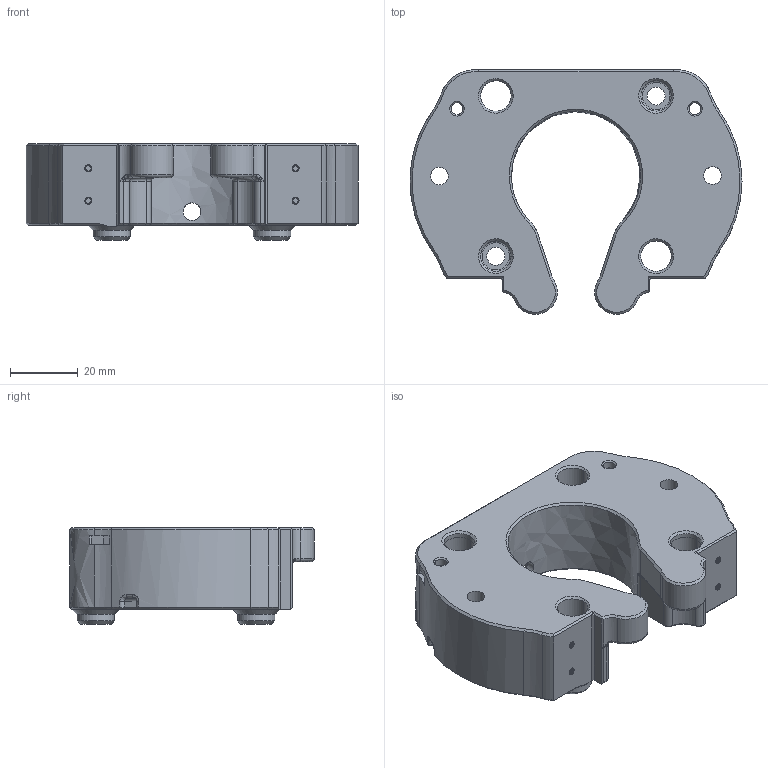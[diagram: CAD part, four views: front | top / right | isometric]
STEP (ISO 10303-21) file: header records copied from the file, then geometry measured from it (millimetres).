
FILE_DESCRIPTION(/* description */ (''),/* implementation_level */ '2;1');
FILE_NAME(/* name */ 'OSSM - Body - Middle.step',/* time_stamp */ '2023-02-08T08:36:30-08:00',/* author */ (''),/* organization */ (''),/* preprocessor_version */ 'ST-DEVELOPER v19.2',/* originating_system */ 'Autodesk Translation Framework v11.17.0.187',/* authorisation */ '');
FILE_SCHEMA (('AUTOMOTIVE_DESIGN { 1 0 10303 214 3 1 1 }'));
Length unit declared in the file: millimetre
Products named in the file (1): OSSM Middle
Bounding box: 97.67 x 72 x 28.4 mm (x, y, z)
Volume: 90347 mm3; surface area: 23049.9 mm2
Topology: 1 solids, 1 shells, 650 faces, 1738 edges, 1110 vertices
Faces by surface type: plane 222, bspline 207, cylinder 172, cone 32, torus 17
Full cylindrical faces by diameter (mm): 1.623 x24, 2.074 x16, 3.5 x4, 5.2 x4, 5.3 x2, 8.8 x2, 11 x2
Entity records: 31404 total; most frequent: CARTESIAN_POINT 17021, ORIENTED_EDGE 3472, DIRECTION 2117, EDGE_CURVE 1736, VERTEX_POINT 1110, LINE 851, VECTOR 851, EDGE_LOOP 696
